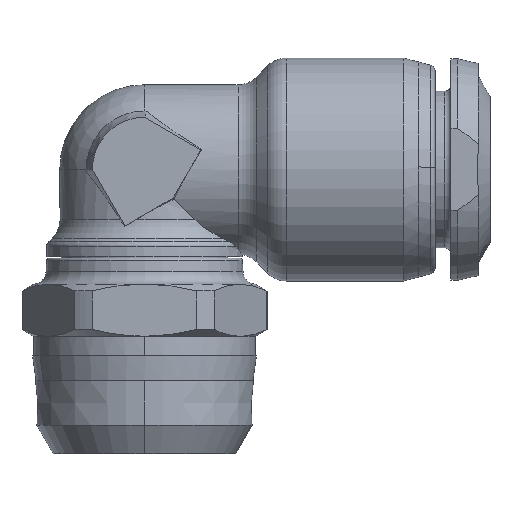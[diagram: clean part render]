
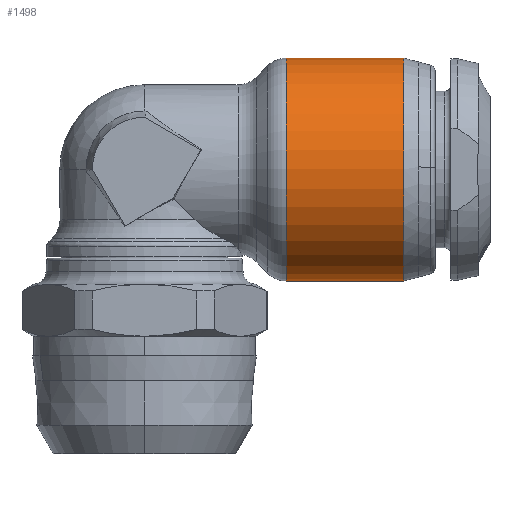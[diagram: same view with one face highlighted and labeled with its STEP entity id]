
A CAD part, top view. The second image highlights one B-rep face of the part: STEP entity #1498.
In plain terms, the highlighted cylindrical face has radius 8.55 mm (diameter 17.1 mm), a partial arc.
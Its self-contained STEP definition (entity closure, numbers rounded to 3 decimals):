
#40 = CARTESIAN_POINT ( 'NONE',  ( 21., 0., 0. ) ) ;
#42 = DIRECTION ( 'NONE',  ( 1., 0., 0. ) ) ;
#44 = DIRECTION ( 'NONE',  ( 0., 1., 0. ) ) ;
#1422 = EDGE_LOOP ( 'NONE', ( #2093, #2094, #2095, #2096 ) ) ;
#1498 = ADVANCED_FACE ( 'NONE', ( #7342 ), #7353, .T. ) ;
#2016 = AXIS2_PLACEMENT_3D ( 'NONE', #40, #42, #44 ) ;
#2093 = ORIENTED_EDGE ( 'NONE', *, *, #5166, .T. ) ;
#2094 = ORIENTED_EDGE ( 'NONE', *, *, #5168, .T. ) ;
#2095 = ORIENTED_EDGE ( 'NONE', *, *, #5169, .F. ) ;
#2096 = ORIENTED_EDGE ( 'NONE', *, *, #5170, .F. ) ;
#2666 = CIRCLE ( 'NONE', #8229, 8.55 ) ;
#2668 = LINE ( 'NONE', #5607, #2681 ) ;
#2670 = LINE ( 'NONE', #5589, #2675 ) ;
#2673 = CIRCLE ( 'NONE', #8231, 8.55 ) ;
#2675 = VECTOR ( 'NONE', #5597, 1000. ) ;
#2681 = VECTOR ( 'NONE', #5601, 1000. ) ;
#3428 = VERTEX_POINT ( 'NONE', #4416 ) ;
#3429 = VERTEX_POINT ( 'NONE', #4417 ) ;
#3430 = VERTEX_POINT ( 'NONE', #4418 ) ;
#3431 = VERTEX_POINT ( 'NONE', #4419 ) ;
#4416 = CARTESIAN_POINT ( 'NONE',  ( 19.88, 8.55, 0. ) ) ;
#4417 = CARTESIAN_POINT ( 'NONE',  ( 19.88, -8.55, 0. ) ) ;
#4418 = CARTESIAN_POINT ( 'NONE',  ( 10.878, 8.55, 0. ) ) ;
#4419 = CARTESIAN_POINT ( 'NONE',  ( 10.878, -8.55, 0. ) ) ;
#5166 = EDGE_CURVE ( 'NONE', #3430, #3431, #2666, .T. ) ;
#5168 = EDGE_CURVE ( 'NONE', #3431, #3429, #2670, .T. ) ;
#5169 = EDGE_CURVE ( 'NONE', #3428, #3429, #2673, .T. ) ;
#5170 = EDGE_CURVE ( 'NONE', #3430, #3428, #2668, .T. ) ;
#5589 = CARTESIAN_POINT ( 'NONE',  ( 21., -8.55, 0. ) ) ;
#5597 = DIRECTION ( 'NONE',  ( 1., 0., 0. ) ) ;
#5598 = CARTESIAN_POINT ( 'NONE',  ( 10.878, 0., 0. ) ) ;
#5599 = DIRECTION ( 'NONE',  ( 1., 0., 0. ) ) ;
#5600 = DIRECTION ( 'NONE',  ( 0., 1., 0. ) ) ;
#5601 = DIRECTION ( 'NONE',  ( 1., 0., 0. ) ) ;
#5607 = CARTESIAN_POINT ( 'NONE',  ( 21., 8.55, 0. ) ) ;
#5608 = CARTESIAN_POINT ( 'NONE',  ( 19.88, 0., 0. ) ) ;
#5609 = DIRECTION ( 'NONE',  ( 1., 0., 0. ) ) ;
#5610 = DIRECTION ( 'NONE',  ( 0., 1., 0. ) ) ;
#7342 = FACE_OUTER_BOUND ( 'NONE', #1422, .T. ) ;
#7353 = CYLINDRICAL_SURFACE ( 'NONE', #2016, 8.55 ) ;
#8229 = AXIS2_PLACEMENT_3D ( 'NONE', #5598, #5599, #5600 ) ;
#8231 = AXIS2_PLACEMENT_3D ( 'NONE', #5608, #5609, #5610 ) ;
